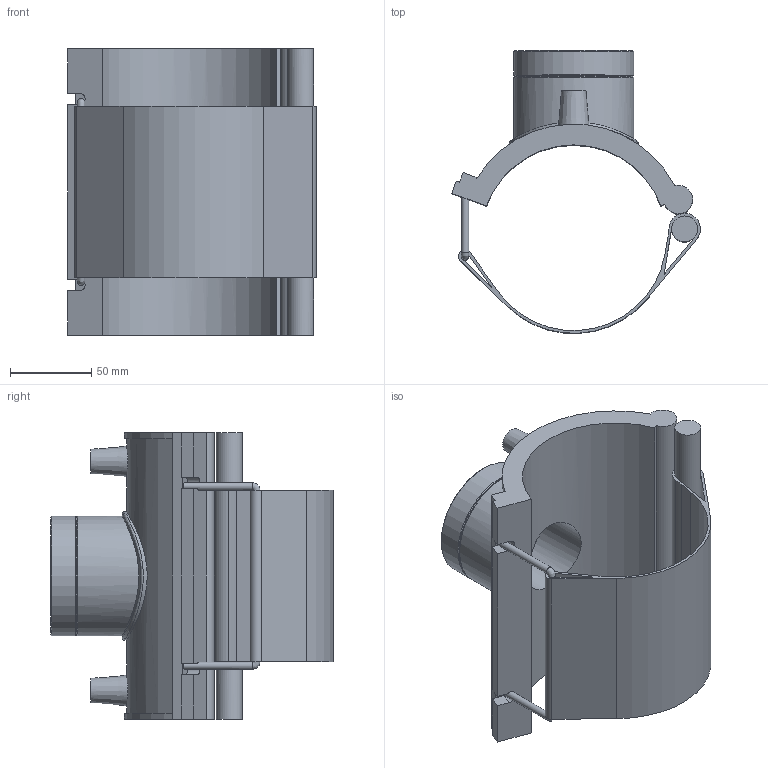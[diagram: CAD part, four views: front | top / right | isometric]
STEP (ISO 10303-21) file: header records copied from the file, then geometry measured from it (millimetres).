
FILE_DESCRIPTION(/* description */ ('PLASSON TRANSITION SADDLE 4''''IPS x 2"NPT'),/* implementation_level */ '2;1');
FILE_NAME(/* name */ 'C:\Dropbox\KIMPROJECTS-Inventor 2019\99-16-3568-Processing Inch\ASTM ElectroFusion 2021\5938B\5938B00304070.ipt.stp',/* time_stamp */ '2021-08-30T09:51:14+03:00',/* author */ ('KIM'),/* organization */ (''),/* preprocessor_version */ 'ST-DEVELOPER v17.2',/* originating_system */ 'Autodesk Inventor 2019',/* authorisation */ '');
FILE_SCHEMA (('AUTOMOTIVE_DESIGN { 1 0 10303 214 3 1 1 }'));
Length unit declared in the file: inch
Products named in the file (1): 5938B00304070
Bounding box: 152.91 x 173.87 x 176.02 mm (x, y, z)
Volume: 557117.5 mm3; surface area: 159484.3 mm2
Topology: 1 solids, 1 shells, 82 faces, 214 edges, 140 vertices
Faces by surface type: plane 44, cylinder 30, cone 5, torus 2, bspline 1
Full cylindrical faces by diameter (mm): 4 x2, 4.564 x2, 10 x2, 15.886 x1, 45.325 x1, 56.656 x1, 72.653 x1, 73.653 x2, 79.318 x1
Entity records: 3033 total; most frequent: CARTESIAN_POINT 893, DIRECTION 443, ORIENTED_EDGE 432, EDGE_CURVE 216, AXIS2_PLACEMENT_3D 160, VERTEX_POINT 141, LINE 123, VECTOR 123
